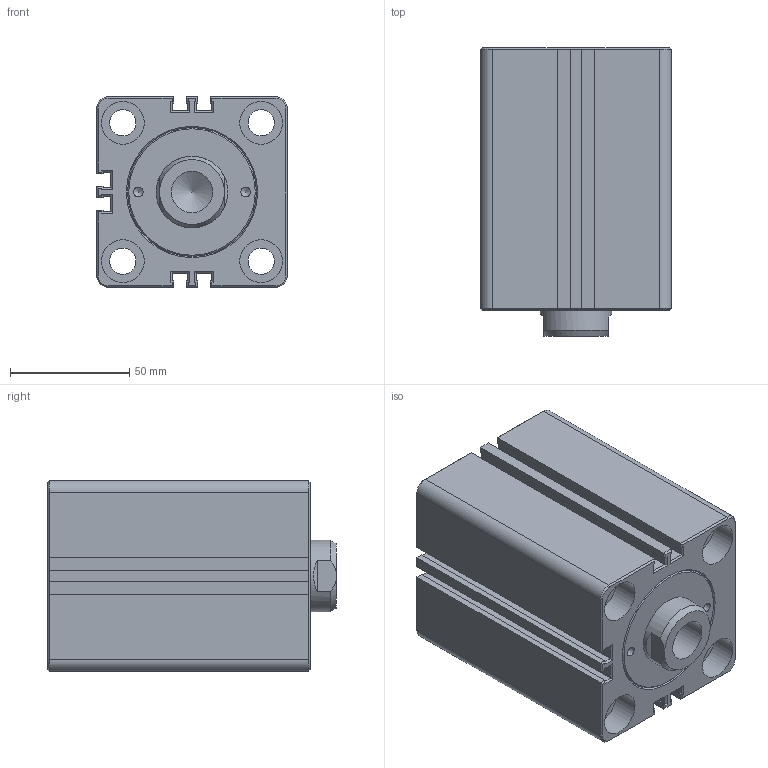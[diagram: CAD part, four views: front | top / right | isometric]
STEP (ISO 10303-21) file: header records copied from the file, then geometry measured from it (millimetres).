
FILE_DESCRIPTION(/* description */ ('Unknown'),/* implementation_level */ '2;1');
FILE_NAME(/* name */ 'HTM70-SD50X50N',/* time_stamp */ '2022-08-31T02:49:28+08:00',/* author */ ('Unknown'),/* organization */ ('Unknown'),/* preprocessor_version */ 'ST-DEVELOPER v16.7',/* originating_system */ 'DEX',/* authorisation */ $);
FILE_SCHEMA (('AUTOMOTIVE_DESIGN {1 0 10303 214 3 1 1}'));
Length unit declared in the file: millimetre
Products named in the file (1): HTM70-SD50X50N
Bounding box: 80 x 121 x 80 mm (x, y, z)
Volume: 619434.2 mm3; surface area: 75873.2 mm2
Topology: 1 solids, 1 shells, 235 faces, 542 edges, 323 vertices
Faces by surface type: plane 176, cone 24, cylinder 23, bspline 12
Full cylindrical faces by diameter (mm): 4.1 x2, 6 x1, 11 x4, 12.301 x2, 17.294 x1, 18 x8, 30 x1
Entity records: 8001 total; most frequent: CARTESIAN_POINT 1285, ORIENTED_EDGE 1002, DIRECTION 992, EDGE_CURVE 501, LINE 390, VECTOR 390, VERTEX_POINT 312, AXIS2_PLACEMENT_3D 301
